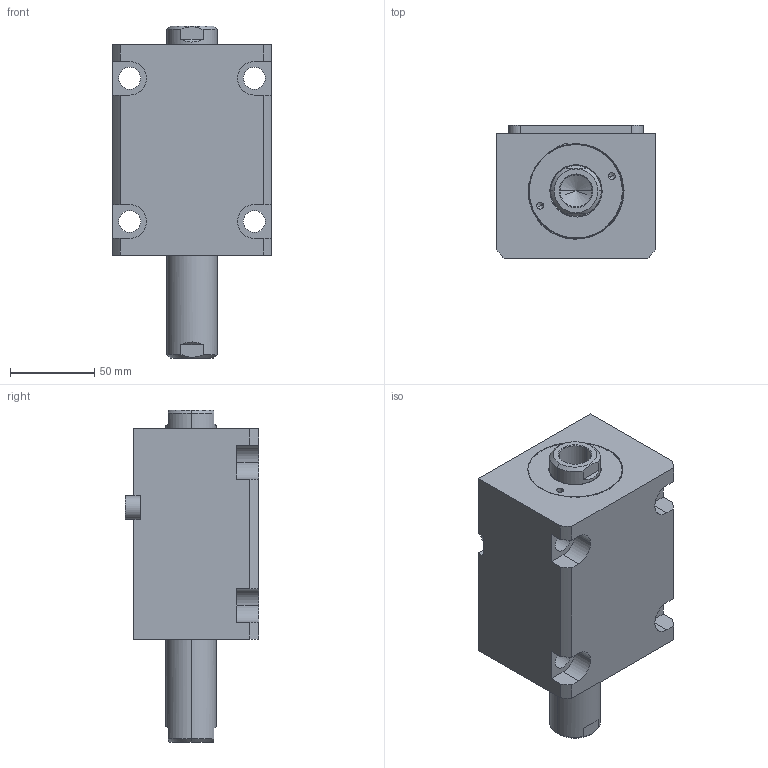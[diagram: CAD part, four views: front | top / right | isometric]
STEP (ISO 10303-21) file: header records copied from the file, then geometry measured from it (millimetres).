
FILE_DESCRIPTION (( 'STEP AP203' ), '1' );
FILE_NAME ('CHTB-LWM50-50N.STEP', '2018-05-22T07:59:45', ( '' ), ( '' ), 'SwSTEP 2.0', 'SolidWorks 2015', '' );
FILE_SCHEMA (( 'CONFIG_CONTROL_DESIGN' ));
Length unit declared in the file: millimetre
Products named in the file (4): 掛极LWM50-50N; CHTB-LWM50-50N; CHTM-SDMA50QG; 活塞杆LWM50-50N
Assembly tree (3 placements, depth 2):
  CHTB-LWM50-50N
    掛极LWM50-50N
    CHTM-SDMA50QG
    活塞杆LWM50-50N
Bounding box: 94 x 79 x 197 mm (x, y, z)
Volume: 785926.1 mm3; surface area: 127673.8 mm2
Topology: 3 solids, 3 shells, 213 faces, 571 edges, 374 vertices
Faces by surface type: cylinder 104, plane 57, cone 22, torus 16, bspline 14
Entity records: 11569 total; most frequent: CARTESIAN_POINT 6050, ORIENTED_EDGE 1126, DIRECTION 1011, EDGE_CURVE 563, AXIS2_PLACEMENT_3D 396, VERTEX_POINT 374, EDGE_LOOP 247, VECTOR 219
